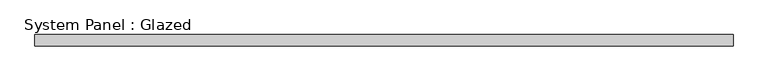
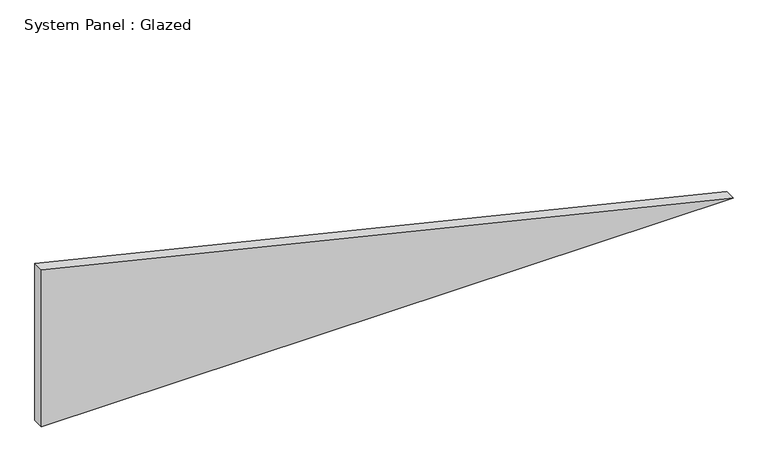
"""IFC4 building model written with IfcOpenShell, lengths in millimetres: plate geometry, System Panel : Glazed."""

from ifc_helpers import new_model, si_unit, frame, origin, place, context, project, spatial, polyline, outline, extrude, source, transform, mapped, element, save


def system_panel_glazed_4c804277(model_context):
    return source(origin(), model_context, "Body", "SweptSolid", [
        extrude(outline(polyline([(0.0, -783.5890294), (0.0, 783.5890294), (375.511198, -783.5890294), (0.0, -783.5890294)])), frame((0.0, 19.05, 0.0), z_axis=(0.0, 1.0, 0.0), x_axis=(0.0, 0.0, 1.0)), (0.0, 0.0, 1.0), 25.4),
    ])


if __name__ == "__main__":
    model = new_model("IFC4")
    model_context = context("Model", 3, world=origin())
    ifc_project = project(units=[si_unit("LENGTHUNIT", "METRE", prefix="MILLI")], contexts=[model_context])
    site = spatial("IfcSite", under=ifc_project)
    building = spatial("IfcBuilding", under=site)
    placement = place(None, origin())
    system_panel_glazed_shape = system_panel_glazed_4c804277(model_context)
    element("IfcPlate", 1, ObjectType="System Panel : Glazed", at=placement, inside=building, context=model_context, shape_type="MappedRepresentation", body=[
        mapped(system_panel_glazed_shape, transform((0.0, 0.0, 0.0), x_axis=(1.0, 0.0, 0.0), y_axis=(0.0, 1.0, 0.0), z_axis=(0.0, 0.0, 1.0))),
    ])
    save(model, "model.ifc")
